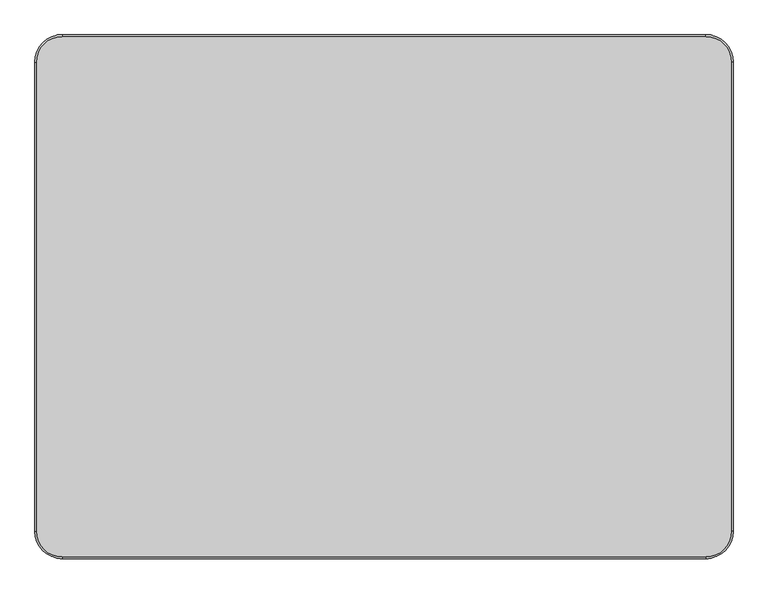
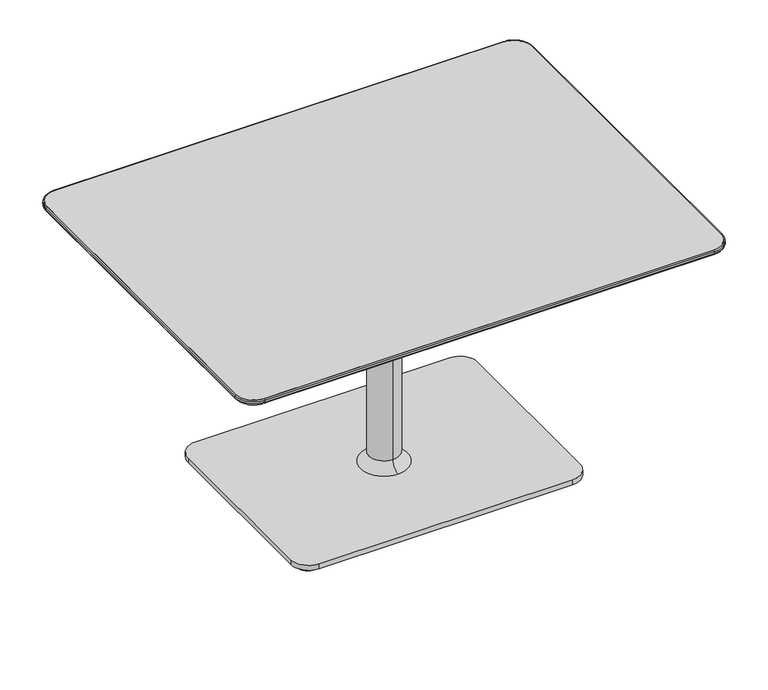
"""IFC4 building model written with IfcOpenShell, lengths in millimetres: furniture geometry, Steelcase Coalesse - Lagunitas - Table - Work : 26H x 36D x 48W."""

from ifc_helpers import new_model, si_unit, point, frame, frame_2d, origin, origin_with_axes, place, context, project, spatial, polyline, circle_curve, ellipse_curve, trimmed, segment, composite_curve, outline, extrude, source, transform, mapped, element, save
from ifc_brep_helpers import plane_surface, cylinder_surface, revolved_surface, spline_surface, advanced_brep


def furniture_39884a35(model_context):
    return source(origin(), model_context, "Body", "SolidModel", [
        advanced_brep(
        [(606.8570059, 409.7063839, 648.3724172), (562.4070059, 454.1563839, 648.3724172), (-561.7969941, 454.1563839, 648.3724172), (-606.2469941, 409.7063839, 648.3724172), (-606.2469941, -409.7063839, 648.3724172), (-561.7969941, -454.1563839, 648.3724172), (562.4070059, -454.1563839, 648.3724172), (606.8570059, -409.7063839, 648.3724172), (539.0389826, 386.3390054, 630.3099277), (539.0389826, -386.3390054, 630.3099277), (-538.4289709, -386.3390054, 630.3099277), (-538.4289709, 386.3390054, 630.3099277)],
        [
            (0, 1, circle_curve(frame((562.4070059, 409.7063839, 648.3724172), z_axis=(0.0, 0.0, 1.0), x_axis=(1.0, 0.0, 0.0)), 44.45)),
            (1, 2),
            (2, 3, circle_curve(frame((-561.7969941, 409.7063839, 648.3724172), z_axis=(0.0, 0.0, 1.0), x_axis=(1.0, 0.0, 0.0)), 44.45)),
            (3, 4),
            (4, 5, circle_curve(frame((-561.7969941, -409.7063839, 648.3724172), z_axis=(0.0, 0.0, 1.0), x_axis=(1.0, 0.0, 0.0)), 44.45)),
            (5, 6),
            (6, 7, circle_curve(frame((562.4070059, -409.7063839, 648.3724172), z_axis=(0.0, 0.0, 1.0), x_axis=(1.0, 0.0, 0.0)), 44.45)),
            (7, 0),
            (8, 9),
            (9, 10),
            (10, 11),
            (11, 8),
            (0, 8),
            (8, 1),
            (11, 2),
            (11, 3),
            (10, 4),
            (10, 5),
            (9, 6),
            (9, 7),
        ],
        [
            plane_surface(frame((0.3050059, 0.0, 648.3724172), z_axis=(0.0, 0.0, 1.0), x_axis=(-1.0, 0.0, 0.0))),
            plane_surface(frame((0.3050059, 0.0, 630.3099277), z_axis=(0.0, 0.0, -1.0), x_axis=(-1.0, 0.0, 0.0))),
            spline_surface(2, 1, [[(539.0389826, 386.3390054, 630.3099277), (606.8570059, 409.7063839, 648.3724172)], [(539.0389826, 386.3390054, 630.3099277), (606.8570059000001, 454.15638390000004, 648.3724172)], [(539.0389826, 386.3390054, 630.3099277), (562.4070059, 454.1563839, 648.3724172)]], [3, 3], [2, 2], [0.0, 1.0], [0.0, 1.0], weights=[[1.0, 1.0], [0.7071067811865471, 0.7071067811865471], [1.0, 1.0]]),
            plane_surface(frame((0.3050059, 386.3390054, 630.3099277), z_axis=(0.0, 0.2573680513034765, -0.9663134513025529), x_axis=(-1.0, 0.0, 0.0))),
            spline_surface(2, 1, [[(-538.4289709, 386.3390054, 630.3099277), (-561.7969941, 454.1563839, 648.3724172)], [(-538.4289709, 386.3390054, 630.3099277), (-606.2469940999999, 454.1563838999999, 648.3724172)], [(-538.4289709, 386.3390054, 630.3099277), (-606.2469941, 409.7063839, 648.3724172)]], [3, 3], [2, 2], [0.0, 1.0], [0.0, 1.0], weights=[[1.0, 1.0], [0.707106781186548, 0.707106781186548], [1.0, 1.0]]),
            plane_surface(frame((-538.4289709, 0.0, 630.3099277), z_axis=(-0.2573657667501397, 0.0, -0.966314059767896), x_axis=(0.0, -1.0, 0.0))),
            spline_surface(2, 1, [[(-538.4289709, -386.3390054, 630.3099277), (-606.2469941, -409.7063839, 648.3724172)], [(-538.4289709, -386.3390054, 630.3099277), (-606.2469941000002, -454.15638390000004, 648.3724172)], [(-538.4289709, -386.3390054, 630.3099277), (-561.7969941, -454.1563839, 648.3724172)]], [3, 3], [2, 2], [0.0, 1.0], [0.0, 1.0], weights=[[1.0, 1.0], [0.7071067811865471, 0.7071067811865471], [1.0, 1.0]]),
            plane_surface(frame((0.3050059, -386.3390054, 630.3099277), z_axis=(0.0, -0.2573680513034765, -0.9663134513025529), x_axis=(1.0, 0.0, 0.0))),
            spline_surface(2, 1, [[(539.0389826, -386.3390054, 630.3099277), (562.4070059, -454.1563839, 648.3724172)], [(539.0389826, -386.3390054, 630.3099277), (606.8570058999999, -454.1563838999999, 648.3724172)], [(539.0389826, -386.3390054, 630.3099277), (606.8570059, -409.7063839, 648.3724172)]], [3, 3], [2, 2], [0.0, 1.0], [0.0, 1.0], weights=[[1.0, 1.0], [0.707106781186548, 0.707106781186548], [1.0, 1.0]]),
            plane_surface(frame((539.0389826, 0.0, 630.3099277), z_axis=(0.2573657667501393, 0.0, -0.9663140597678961), x_axis=(0.0, 1.0, 0.0))),
        ],
        [
            (0, [[1, 2, 3, 4, 5, 6, 7, 8]]),
            (1, [[9, 10, 11, 12]]),
            (2, [[-1, 13, 14]]),
            (3, [[-12, 15, -2, -14]]),
            (4, [[-3, -15, 16]]),
            (5, [[-11, 17, -4, -16]]),
            (6, [[-5, -17, 18]]),
            (7, [[-10, 19, -6, -18]]),
            (8, [[-7, -19, 20]]),
            (9, [[-9, -13, -8, -20]]),
        ],
    ),
        extrude(outline(composite_curve([segment(trimmed(circle_curve(frame_2d((562.4070059, 409.7063839)), 44.45), [point((562.4070059, 454.1563839))], [point((606.8570059, 409.7063839))], False, "CARTESIAN"), True, "CONTINUOUS"), segment(polyline([(606.8570059, 409.7063839), (606.8570059, -409.7063839)]), True, "CONTINUOUS"), segment(trimmed(circle_curve(frame_2d((562.4070059, -409.7063839)), 44.45), [point((606.8570059, -409.7063839))], [point((562.4070059, -454.1563839))], False, "CARTESIAN"), True, "CONTINUOUS"), segment(polyline([(562.4070059, -454.1563839), (-561.7969941, -454.1563839)]), True, "CONTINUOUS"), segment(trimmed(circle_curve(frame_2d((-561.7969941, -409.7063839)), 44.45), [point((-561.7969941, -454.1563839))], [point((-606.2469941, -409.7063839))], False, "CARTESIAN"), True, "CONTINUOUS"), segment(polyline([(-606.2469941, -409.7063839), (-606.2469941, 409.7063839)]), True, "CONTINUOUS"), segment(trimmed(circle_curve(frame_2d((-561.7969941, 409.7063839)), 44.45), [point((-606.2469941, 409.7063839))], [point((-561.7969941, 454.1563839))], False, "CARTESIAN"), True, "CONTINUOUS"), segment(polyline([(-561.7969941, 454.1563839), (562.4070059, 454.1563839)]), True, "CONTINUOUS")], self_intersect=False)), frame((0.0, 0.0, 648.3724172), z_axis=(0.0, 0.0, 1.0), x_axis=(1.0, 0.0, 0.0)), (0.0, 0.0, 1.0), 12.0275828),
        extrude(outline(composite_curve([segment(trimmed(circle_curve(frame_2d((-321.7443146, 226.8029495)), 25.4), [point((-347.1443146, 226.8029495))], [point((-296.3443146, 226.8029495))], False, "CARTESIAN"), True, "CONTINUOUS"), segment(trimmed(circle_curve(frame_2d((-321.7443146, 226.8029495)), 25.4), [point((-296.3443146, 226.8029495))], [point((-347.1443146, 226.8029495))], False, "CARTESIAN"), True, "CONTINUOUS")], self_intersect=False)), origin_with_axes(), (0.0, 0.0, 1.0), 10.6571495),
        extrude(outline(composite_curve([segment(trimmed(circle_curve(frame_2d((322.3543263, 226.8029495)), 25.4), [point((296.9543263, 226.8029495))], [point((347.7543263, 226.8029495))], False, "CARTESIAN"), True, "CONTINUOUS"), segment(trimmed(circle_curve(frame_2d((322.3543263, 226.8029495)), 25.4), [point((347.7543263, 226.8029495))], [point((296.9543263, 226.8029495))], False, "CARTESIAN"), True, "CONTINUOUS")], self_intersect=False)), origin_with_axes(), (0.0, 0.0, 1.0), 10.6571495),
        extrude(outline(composite_curve([segment(trimmed(circle_curve(frame_2d((322.3543263, -226.8029495)), 25.4), [point((296.9543263, -226.8029495))], [point((347.7543263, -226.8029495))], False, "CARTESIAN"), True, "CONTINUOUS"), segment(trimmed(circle_curve(frame_2d((322.3543263, -226.8029495)), 25.4), [point((347.7543263, -226.8029495))], [point((296.9543263, -226.8029495))], False, "CARTESIAN"), True, "CONTINUOUS")], self_intersect=False)), origin_with_axes(), (0.0, 0.0, 1.0), 10.6571495),
        extrude(outline(composite_curve([segment(trimmed(circle_curve(frame_2d((-321.7443146, -226.8029495)), 25.4), [point((-347.1443146, -226.8029495))], [point((-296.3443146, -226.8029495))], False, "CARTESIAN"), True, "CONTINUOUS"), segment(trimmed(circle_curve(frame_2d((-321.7443146, -226.8029495)), 25.4), [point((-296.3443146, -226.8029495))], [point((-347.1443146, -226.8029495))], False, "CARTESIAN"), True, "CONTINUOUS")], self_intersect=False)), origin_with_axes(), (0.0, 0.0, 1.0), 10.6571495),
        extrude(outline(composite_curve([segment(trimmed(circle_curve(frame_2d((317.8050059, 222.2481833)), 44.45), [point((317.8050059, 266.6981833))], [point((362.2550059, 222.2481833))], False, "CARTESIAN"), True, "CONTINUOUS"), segment(polyline([(362.2550059, 222.2481833), (362.2550059, -222.2481833)]), True, "CONTINUOUS"), segment(trimmed(circle_curve(frame_2d((317.8050059, -222.2481833)), 44.45), [point((362.2550059, -222.2481833))], [point((317.8050059, -266.6981833))], False, "CARTESIAN"), True, "CONTINUOUS"), segment(polyline([(317.8050059, -266.6981833), (-317.1949941, -266.6981833)]), True, "CONTINUOUS"), segment(trimmed(circle_curve(frame_2d((-317.1949941, -222.2481833)), 44.45), [point((-317.1949941, -266.6981833))], [point((-361.6449941, -222.2481833))], False, "CARTESIAN"), True, "CONTINUOUS"), segment(polyline([(-361.6449941, -222.2481833), (-361.6449941, 222.2481833)]), True, "CONTINUOUS"), segment(trimmed(circle_curve(frame_2d((-317.1949941, 222.2481833)), 44.45), [point((-361.6449941, 222.2481833))], [point((-317.1949941, 266.6981833))], False, "CARTESIAN"), True, "CONTINUOUS"), segment(polyline([(-317.1949941, 266.6981833), (317.8050059, 266.6981833)]), True, "CONTINUOUS")], self_intersect=False)), frame((0.0, 0.0, 10.6571495), z_axis=(0.0, 0.0, 1.0), x_axis=(1.0, 0.0, 0.0)), (0.0, 0.0, 1.0), 12.7000004),
        advanced_brep(
        [(-609.2930954, 409.7063839, 652.1656816), (-561.7969941, 457.2024852, 652.1656816), (-561.7969941, 454.1563839, 648.3724172), (-606.2469941, 409.7063839, 648.3724172), (-609.2930954, 409.7063839, 657.3538988), (-561.7969941, 457.2024852, 657.3538988), (-606.2469941, 409.7063839, 660.4), (-561.7969941, 454.1563839, 660.4), (-606.2469941, -409.7063839, 648.3724172), (-609.2930954, -409.7063839, 652.1656816), (-609.2930954, -409.7063839, 657.3538988), (-606.2469941, -409.7063839, 660.4), (-561.7969941, -457.2024852, 652.1656816), (-561.7969941, -454.1563839, 648.3724172), (-561.7969941, -457.2024852, 657.3538988), (-561.7969941, -454.1563839, 660.4), (562.4070059, -454.1563839, 648.3724172), (562.4070059, -457.2024852, 652.1656816), (562.4070059, -457.2024852, 657.3538988), (562.4070059, -454.1563839, 660.4), (609.9031071, -409.7063839, 652.1656816), (606.8570059, -409.7063839, 648.3724172), (609.9031071, -409.7063839, 657.3538988), (606.8570059, -409.7063839, 660.4), (606.8570059, 409.7063839, 648.3724172), (609.9031071, 409.7063839, 652.1656816), (609.9031071, 409.7063839, 657.3538988), (606.8570059, 409.7063839, 660.4), (562.4070059, 457.2024852, 652.1656816), (562.4070059, 454.1563839, 648.3724172), (562.4070059, 457.2024852, 657.3538988), (562.4070059, 454.1563839, 660.4)],
        [
            (0, 1, circle_curve(frame((-561.7969941, 409.7063839, 652.1656816), z_axis=(0.0, 0.0, -1.0), x_axis=(0.0, 1.0, 0.0)), 47.4961012)),
            (1, 2, circle_curve(frame((-561.7969941, 453.3175869, 652.1656816), z_axis=(-1.0, 0.0, 0.0), x_axis=(0.0, -1.0, 0.0)), 3.8848983)),
            (2, 3, circle_curve(frame((-561.7969941, 409.7063839, 648.3724172), z_axis=(0.0, 0.0, 1.0), x_axis=(0.0, 1.0, 0.0)), 44.45)),
            (3, 0, circle_curve(frame((-605.4081971, 409.7063839, 652.1656816), z_axis=(0.0, 1.0, 0.0), x_axis=(1.0, 0.0, 0.0)), 3.8848983)),
            (4, 5, circle_curve(frame((-561.7969941, 409.7063839, 657.3538988), z_axis=(0.0, 0.0, -1.0), x_axis=(0.0, 1.0, 0.0)), 47.4961012)),
            (5, 1),
            (0, 4),
            (6, 7, circle_curve(frame((-561.7969941, 409.7063839, 660.4), z_axis=(0.0, 0.0, -1.0), x_axis=(0.0, 1.0, 0.0)), 44.45)),
            (7, 5, circle_curve(frame((-561.7969941, 454.1563839, 657.3538988), z_axis=(-1.0, 0.0, 0.0), x_axis=(0.0, -1.0, 0.0)), 3.0461012)),
            (4, 6, circle_curve(frame((-606.2469941, 409.7063839, 657.3538988), z_axis=(0.0, 1.0, 0.0), x_axis=(1.0, 0.0, 0.0)), 3.0461012)),
            (2, 7),
            (6, 3),
            (3, 8),
            (8, 9, circle_curve(frame((-605.4081971, -409.7063839, 652.1656816), z_axis=(0.0, 1.0, 0.0), x_axis=(1.0, 0.0, 0.0)), 3.8848983)),
            (9, 0),
            (9, 10),
            (10, 4),
            (10, 11, circle_curve(frame((-606.2469941, -409.7063839, 657.3538988), z_axis=(0.0, 1.0, 0.0), x_axis=(1.0, 0.0, 0.0)), 3.0461012)),
            (11, 6),
            (11, 8),
            (12, 9, circle_curve(frame((-561.7969941, -409.7063839, 652.1656816), z_axis=(0.0, 0.0, -1.0), x_axis=(-1.0, 0.0, 0.0)), 47.4961012)),
            (8, 13, circle_curve(frame((-561.7969941, -409.7063839, 648.3724172), z_axis=(0.0, 0.0, 1.0), x_axis=(-1.0, 0.0, 0.0)), 44.45)),
            (13, 12, circle_curve(frame((-561.7969941, -453.3175869, 652.1656816), z_axis=(-1.0, 0.0, 0.0), x_axis=(0.0, 1.0, 0.0)), 3.8848983)),
            (14, 10, circle_curve(frame((-561.7969941, -409.7063839, 657.3538988), z_axis=(0.0, 0.0, -1.0), x_axis=(-1.0, 0.0, 0.0)), 47.4961012)),
            (12, 14),
            (15, 11, circle_curve(frame((-561.7969941, -409.7063839, 660.4), z_axis=(0.0, 0.0, -1.0), x_axis=(-1.0, 0.0, 0.0)), 44.45)),
            (14, 15, circle_curve(frame((-561.7969941, -454.1563839, 657.3538988), z_axis=(-1.0, 0.0, 0.0), x_axis=(0.0, 1.0, 0.0)), 3.0461012)),
            (15, 13),
            (13, 16),
            (16, 17, circle_curve(frame((562.4070059, -453.3175869, 652.1656816), z_axis=(-1.0, 0.0, 0.0), x_axis=(0.0, 1.0, 0.0)), 3.8848983)),
            (17, 12),
            (17, 18),
            (18, 14),
            (18, 19, circle_curve(frame((562.4070059, -454.1563839, 657.3538988), z_axis=(-1.0, 0.0, 0.0), x_axis=(0.0, 1.0, 0.0)), 3.0461012)),
            (19, 15),
            (19, 16),
            (20, 17, circle_curve(frame((562.4070059, -409.7063839, 652.1656816), z_axis=(0.0, 0.0, -1.0), x_axis=(0.0, -1.0, 0.0)), 47.4961012)),
            (16, 21, circle_curve(frame((562.4070059, -409.7063839, 648.3724172), z_axis=(0.0, 0.0, 1.0), x_axis=(0.0, -1.0, 0.0)), 44.45)),
            (21, 20, circle_curve(frame((606.0182088, -409.7063839, 652.1656816), z_axis=(0.0, -1.0, 0.0), x_axis=(-1.0, 0.0, 0.0)), 3.8848983)),
            (22, 18, circle_curve(frame((562.4070059, -409.7063839, 657.3538988), z_axis=(0.0, 0.0, -1.0), x_axis=(0.0, -1.0, 0.0)), 47.4961012)),
            (20, 22),
            (23, 19, circle_curve(frame((562.4070059, -409.7063839, 660.4), z_axis=(0.0, 0.0, -1.0), x_axis=(0.0, -1.0, 0.0)), 44.45)),
            (22, 23, circle_curve(frame((606.8570059, -409.7063839, 657.3538988), z_axis=(0.0, -1.0, 0.0), x_axis=(-1.0, 0.0, 0.0)), 3.0461012)),
            (23, 21),
            (21, 24),
            (24, 25, circle_curve(frame((606.0182088, 409.7063839, 652.1656816), z_axis=(0.0, -1.0, 0.0), x_axis=(-1.0, 0.0, 0.0)), 3.8848983)),
            (25, 20),
            (25, 26),
            (26, 22),
            (26, 27, circle_curve(frame((606.8570059, 409.7063839, 657.3538988), z_axis=(0.0, -1.0, 0.0), x_axis=(-1.0, 0.0, 0.0)), 3.0461012)),
            (27, 23),
            (27, 24),
            (28, 25, circle_curve(frame((562.4070059, 409.7063839, 652.1656816), z_axis=(0.0, 0.0, -1.0), x_axis=(1.0, 0.0, 0.0)), 47.4961012)),
            (24, 29, circle_curve(frame((562.4070059, 409.7063839, 648.3724172), z_axis=(0.0, 0.0, 1.0), x_axis=(1.0, 0.0, 0.0)), 44.45)),
            (29, 28, circle_curve(frame((562.4070059, 453.3175869, 652.1656816), z_axis=(1.0, 0.0, 0.0), x_axis=(0.0, -1.0, 0.0)), 3.8848983)),
            (30, 26, circle_curve(frame((562.4070059, 409.7063839, 657.3538988), z_axis=(0.0, 0.0, -1.0), x_axis=(1.0, 0.0, 0.0)), 47.4961012)),
            (28, 30),
            (31, 27, circle_curve(frame((562.4070059, 409.7063839, 660.4), z_axis=(0.0, 0.0, -1.0), x_axis=(1.0, 0.0, 0.0)), 44.45)),
            (30, 31, circle_curve(frame((562.4070059, 454.1563839, 657.3538988), z_axis=(1.0, 0.0, 0.0), x_axis=(0.0, -1.0, 0.0)), 3.0461012)),
            (31, 29),
            (29, 2),
            (1, 28),
            (5, 30),
            (7, 31),
        ],
        [
            revolved_surface(trimmed(ellipse_curve(frame((-561.7969941, 453.3175869, 652.1656816), z_axis=(1.0, 0.0, 0.0), x_axis=(0.0, -1.0, 0.0)), 3.8848983, 3.8848983), [point((-561.7969941, 454.1563839, 648.3724172))], [point((-561.7969941, 457.2024852, 652.1656816))], True, "CARTESIAN"), (-561.7969941, 409.7063839, 0.0), (0.0, 0.0, 1.0)),
            cylinder_surface(frame((-561.7969941, 409.7063839, 0.0), z_axis=(0.0, 0.0, 1.0), x_axis=(0.0, 1.0, 0.0)), 47.4961012),
            revolved_surface(trimmed(ellipse_curve(frame((-561.7969941, 454.1563839, 657.3538988), z_axis=(1.0, 0.0, 0.0), x_axis=(0.0, -1.0, 0.0)), 3.0461012, 3.0461012), [point((-561.7969941, 457.2024852, 657.3538988))], [point((-561.7969941, 454.1563839, 660.4))], True, "CARTESIAN"), (-561.7969941, 409.7063839, 0.0), (0.0, 0.0, 1.0)),
            revolved_surface(polyline([(-561.7969941, 454.1563839, 660.4), (-561.7969941, 454.1563839, 648.3724172)]), (-561.7969941, 409.7063839, 0.0), (0.0, 0.0, 1.0)),
            cylinder_surface(frame((-605.4081971, 409.7063839, 652.1656816), z_axis=(0.0, 1.0, 0.0), x_axis=(1.0, 0.0, 0.0)), 3.8848983),
            plane_surface(frame((-609.2930954, 409.7063839, 652.1656816), z_axis=(-1.0, 0.0, 0.0), x_axis=(0.0, -1.0, 0.0))),
            cylinder_surface(frame((-606.2469941, 409.7063839, 657.3538988), z_axis=(0.0, 1.0, 0.0), x_axis=(1.0, 0.0, 0.0)), 3.0461012),
            plane_surface(frame((-606.2469941, 409.7063839, 660.4), z_axis=(1.0, 0.0, 0.0), x_axis=(0.0, -1.0, 0.0))),
            revolved_surface(trimmed(ellipse_curve(frame((-605.4081971, -409.7063839, 652.1656816), z_axis=(0.0, 1.0, 0.0), x_axis=(1.0, 0.0, 0.0)), 3.8848983, 3.8848983), [point((-606.2469941, -409.7063839, 648.3724172))], [point((-609.2930954, -409.7063839, 652.1656816))], True, "CARTESIAN"), (-561.7969941, -409.7063839, 0.0), (0.0, 0.0, 1.0)),
            cylinder_surface(frame((-561.7969941, -409.7063839, 0.0), z_axis=(0.0, 0.0, 1.0), x_axis=(-1.0, 0.0, 0.0)), 47.4961012),
            revolved_surface(trimmed(ellipse_curve(frame((-606.2469941, -409.7063839, 657.3538988), z_axis=(0.0, 1.0, 0.0), x_axis=(1.0, 0.0, 0.0)), 3.0461012, 3.0461012), [point((-609.2930954, -409.7063839, 657.3538988))], [point((-606.2469941, -409.7063839, 660.4))], True, "CARTESIAN"), (-561.7969941, -409.7063839, 0.0), (0.0, 0.0, 1.0)),
            revolved_surface(polyline([(-606.2469941, -409.7063839, 660.4), (-606.2469941, -409.7063839, 648.3724172)]), (-561.7969941, -409.7063839, 0.0), (0.0, 0.0, 1.0)),
            cylinder_surface(frame((-561.7969941, -453.3175869, 652.1656816), z_axis=(-1.0, 0.0, 0.0), x_axis=(0.0, 1.0, 0.0)), 3.8848983),
            plane_surface(frame((-561.7969941, -457.2024852, 652.1656816), z_axis=(0.0, -1.0, 0.0), x_axis=(1.0, 0.0, 0.0))),
            cylinder_surface(frame((-561.7969941, -454.1563839, 657.3538988), z_axis=(-1.0, 0.0, 0.0), x_axis=(0.0, 1.0, 0.0)), 3.0461012),
            plane_surface(frame((-561.7969941, -454.1563839, 660.4), z_axis=(0.0, 1.0, 0.0), x_axis=(1.0, 0.0, 0.0))),
            revolved_surface(trimmed(ellipse_curve(frame((562.4070059, -453.3175869, 652.1656816), z_axis=(-1.0, 0.0, 0.0), x_axis=(0.0, 1.0, 0.0)), 3.8848983, 3.8848983), [point((562.4070059, -454.1563839, 648.3724172))], [point((562.4070059, -457.2024852, 652.1656816))], True, "CARTESIAN"), (562.4070059, -409.7063839, 0.0), (0.0, 0.0, 1.0)),
            cylinder_surface(frame((562.4070059, -409.7063839, 0.0), z_axis=(0.0, 0.0, 1.0), x_axis=(0.0, -1.0, 0.0)), 47.4961012),
            revolved_surface(trimmed(ellipse_curve(frame((562.4070059, -454.1563839, 657.3538988), z_axis=(-1.0, 0.0, 0.0), x_axis=(0.0, 1.0, 0.0)), 3.0461012, 3.0461012), [point((562.4070059, -457.2024852, 657.3538988))], [point((562.4070059, -454.1563839, 660.4))], True, "CARTESIAN"), (562.4070059, -409.7063839, 0.0), (0.0, 0.0, 1.0)),
            revolved_surface(polyline([(562.4070059, -454.1563839, 660.4), (562.4070059, -454.1563839, 648.3724172)]), (562.4070059, -409.7063839, 0.0), (0.0, 0.0, 1.0)),
            cylinder_surface(frame((606.0182088, -409.7063839, 652.1656816), z_axis=(0.0, -1.0, 0.0), x_axis=(-1.0, 0.0, 0.0)), 3.8848983),
            plane_surface(frame((609.9031071, -409.7063839, 652.1656816), z_axis=(1.0, 0.0, 0.0), x_axis=(0.0, 1.0, 0.0))),
            cylinder_surface(frame((606.8570059, -409.7063839, 657.3538988), z_axis=(0.0, -1.0, 0.0), x_axis=(-1.0, 0.0, 0.0)), 3.0461012),
            plane_surface(frame((606.8570059, -409.7063839, 660.4), z_axis=(-1.0, 0.0, 0.0), x_axis=(0.0, 1.0, 0.0))),
            revolved_surface(trimmed(ellipse_curve(frame((606.0182088, 409.7063839, 652.1656816), z_axis=(0.0, -1.0, 0.0), x_axis=(-1.0, 0.0, 0.0)), 3.8848983, 3.8848983), [point((606.8570059, 409.7063839, 648.3724172))], [point((609.9031071, 409.7063839, 652.1656816))], True, "CARTESIAN"), (562.4070059, 409.7063839, 0.0), (0.0, 0.0, 1.0)),
            cylinder_surface(frame((562.4070059, 409.7063839, 0.0), z_axis=(0.0, 0.0, 1.0), x_axis=(1.0, 0.0, 0.0)), 47.4961012),
            revolved_surface(trimmed(ellipse_curve(frame((606.8570059, 409.7063839, 657.3538988), z_axis=(0.0, -1.0, 0.0), x_axis=(-1.0, 0.0, 0.0)), 3.0461012, 3.0461012), [point((609.9031071, 409.7063839, 657.3538988))], [point((606.8570059, 409.7063839, 660.4))], True, "CARTESIAN"), (562.4070059, 409.7063839, 0.0), (0.0, 0.0, 1.0)),
            revolved_surface(polyline([(606.8570059, 409.7063839, 660.4), (606.8570059, 409.7063839, 648.3724172)]), (562.4070059, 409.7063839, 0.0), (0.0, 0.0, 1.0)),
            cylinder_surface(frame((562.4070059, 453.3175869, 652.1656816), z_axis=(1.0, 0.0, 0.0), x_axis=(0.0, -1.0, 0.0)), 3.8848983),
            plane_surface(frame((562.4070059, 457.2024852, 652.1656816), z_axis=(0.0, 1.0, 0.0), x_axis=(-1.0, 0.0, 0.0))),
            cylinder_surface(frame((562.4070059, 454.1563839, 657.3538988), z_axis=(1.0, 0.0, 0.0), x_axis=(0.0, -1.0, 0.0)), 3.0461012),
            plane_surface(frame((562.4070059, 454.1563839, 660.4), z_axis=(0.0, -1.0, 0.0), x_axis=(-1.0, 0.0, 0.0))),
        ],
        [
            (0, [[1, 2, 3, 4]]),
            (1, [[5, 6, -1, 7]]),
            (2, [[8, 9, -5, 10]]),
            (3, [[-3, 11, -8, 12]]),
            (4, [[-4, 13, 14, 15]]),
            (5, [[-7, -15, 16, 17]]),
            (6, [[-10, -17, 18, 19]]),
            (7, [[-12, -19, 20, -13]]),
            (8, [[21, -14, 22, 23]]),
            (9, [[24, -16, -21, 25]]),
            (10, [[26, -18, -24, 27]]),
            (11, [[-22, -20, -26, 28]]),
            (12, [[-23, 29, 30, 31]]),
            (13, [[-25, -31, 32, 33]]),
            (14, [[-27, -33, 34, 35]]),
            (15, [[-28, -35, 36, -29]]),
            (16, [[37, -30, 38, 39]]),
            (17, [[40, -32, -37, 41]]),
            (18, [[42, -34, -40, 43]]),
            (19, [[-38, -36, -42, 44]]),
            (20, [[-39, 45, 46, 47]]),
            (21, [[-41, -47, 48, 49]]),
            (22, [[-43, -49, 50, 51]]),
            (23, [[-44, -51, 52, -45]]),
            (24, [[53, -46, 54, 55]]),
            (25, [[56, -48, -53, 57]]),
            (26, [[58, -50, -56, 59]]),
            (27, [[-54, -52, -58, 60]]),
            (28, [[-55, 61, -2, 62]]),
            (29, [[-57, -62, -6, 63]]),
            (30, [[-59, -63, -9, 64]]),
            (31, [[-60, -64, -11, -61]]),
        ],
    ),
        advanced_brep(
        [(0.3050059, -37.9287895, 500.8567695), (0.3050059, 37.9287895, 500.8567695), (0.3050059, 37.9287895, 50.0429711), (0.3050059, -37.9287895, 50.0429711), (0.3050059, -59.3395816, 538.8698908), (0.3050059, 59.3395816, 538.8698908), (0.3050059, -197.9068019, 622.8534968), (0.3050059, 197.9068019, 622.8534968), (0.3050059, -212.4265152, 626.9101307), (0.3050059, 212.4265152, 626.9101307), (0.3050059, -226.4292749, 626.9101307), (0.3050059, 226.4292749, 626.9101307), (0.3050059, -228.4774392, 630.3099277), (0.3050059, 228.4774392, 630.3099277), (0.3050059, 0.0, 630.3099277), (0.3050059, -60.2304855, 23.3571499), (0.3050059, 60.2304855, 23.3571499), (0.3050059, 0.0, 23.3571499)],
        [
            (0, 1, circle_curve(frame((0.3050059, 0.0, 500.8567695), z_axis=(0.0, 0.0, -1.0), x_axis=(0.0, 1.0, 0.0)), 37.9287895)),
            (1, 2),
            (2, 3, circle_curve(frame((0.3050059, 0.0, 50.0429711), z_axis=(0.0, 0.0, 1.0), x_axis=(0.0, 1.0, 0.0)), 37.9287895)),
            (3, 0),
            (1, 0, circle_curve(frame((0.3050059, 0.0, 500.8567695), z_axis=(0.0, 0.0, -1.0), x_axis=(0.0, 1.0, 0.0)), 37.9287895)),
            (3, 2, circle_curve(frame((0.3050059, 0.0, 50.0429711), z_axis=(0.0, 0.0, 1.0), x_axis=(0.0, 1.0, 0.0)), 37.9287895)),
            (4, 5, circle_curve(frame((0.3050059, 0.0, 538.8698908), z_axis=(0.0, 0.0, -1.0), x_axis=(0.0, 1.0, 0.0)), 59.3395816)),
            (5, 1, circle_curve(frame((0.3050059, 82.3787895, 500.8567695), z_axis=(1.0, 0.0, 0.0), x_axis=(0.0, 1.0, 0.0)), 44.45)),
            (0, 4, circle_curve(frame((0.3050059, -82.3787895, 500.8567695), z_axis=(1.0, 0.0, 0.0), x_axis=(0.0, -1.0, 0.0)), 44.45)),
            (5, 4, circle_curve(frame((0.3050059, 0.0, 538.8698908), z_axis=(0.0, 0.0, -1.0), x_axis=(0.0, 1.0, 0.0)), 59.3395816)),
            (6, 7, circle_curve(frame((0.3050059, 0.0, 622.8534968), z_axis=(0.0, 0.0, -1.0), x_axis=(0.0, 1.0, 0.0)), 197.9068019)),
            (7, 5),
            (4, 6),
            (7, 6, circle_curve(frame((0.3050059, 0.0, 622.8534968), z_axis=(0.0, 0.0, -1.0), x_axis=(0.0, 1.0, 0.0)), 197.9068019)),
            (8, 9, circle_curve(frame((0.3050059, 0.0, 626.9101307), z_axis=(0.0, 0.0, -1.0), x_axis=(0.0, 1.0, 0.0)), 212.4265152)),
            (9, 7, circle_curve(frame((0.3050059, 212.4265152, 598.8969605), z_axis=(1.0, 0.0, 0.0), x_axis=(0.0, 1.0, 0.0)), 28.0131702)),
            (6, 8, circle_curve(frame((0.3050059, -212.4265152, 598.8969605), z_axis=(1.0, 0.0, 0.0), x_axis=(0.0, -1.0, 0.0)), 28.0131702)),
            (9, 8, circle_curve(frame((0.3050059, 0.0, 626.9101307), z_axis=(0.0, 0.0, -1.0), x_axis=(0.0, 1.0, 0.0)), 212.4265152)),
            (10, 11, circle_curve(frame((0.3050059, 0.0, 626.9101307), z_axis=(0.0, 0.0, -1.0), x_axis=(0.0, 1.0, 0.0)), 226.4292749)),
            (11, 9),
            (8, 10),
            (11, 10, circle_curve(frame((0.3050059, 0.0, 626.9101307), z_axis=(0.0, 0.0, -1.0), x_axis=(0.0, 1.0, 0.0)), 226.4292749)),
            (12, 13, circle_curve(frame((0.3050059, 0.0, 630.3099277), z_axis=(0.0, 0.0, -1.0), x_axis=(0.0, 1.0, 0.0)), 228.4774392)),
            (13, 11, circle_curve(frame((0.3050059, 226.4292749, 629.2269744), z_axis=(-1.0, 0.0, 0.0), x_axis=(0.0, 1.0, 0.0)), 2.3168437)),
            (10, 12, circle_curve(frame((0.3050059, -226.4292749, 629.2269744), z_axis=(-1.0, 0.0, 0.0), x_axis=(0.0, -1.0, 0.0)), 2.3168437)),
            (13, 12, circle_curve(frame((0.3050059, 0.0, 630.3099277), z_axis=(0.0, 0.0, -1.0), x_axis=(0.0, 1.0, 0.0)), 228.4774392)),
            (14, 13),
            (12, 14),
            (15, 16, circle_curve(frame((0.3050059, 0.0, 23.3571499), z_axis=(0.0, 0.0, -1.0), x_axis=(0.0, 1.0, 0.0)), 60.2304855)),
            (16, 17),
            (17, 15),
            (16, 15, circle_curve(frame((0.3050059, 0.0, 23.3571499), z_axis=(0.0, 0.0, -1.0), x_axis=(0.0, 1.0, 0.0)), 60.2304855)),
            (2, 16, circle_curve(frame((0.3050059, 65.045532, 50.0429711), z_axis=(1.0, 0.0, 0.0), x_axis=(0.0, 1.0, 0.0)), 27.1167425)),
            (15, 3, circle_curve(frame((0.3050059, -65.045532, 50.0429711), z_axis=(1.0, 0.0, 0.0), x_axis=(0.0, -1.0, 0.0)), 27.1167425)),
        ],
        [
            cylinder_surface(frame((0.3050059, 0.0, 738.2745102), z_axis=(0.0, 0.0, 1.0), x_axis=(0.0, 1.0, 0.0)), 37.9287895),
            revolved_surface(trimmed(ellipse_curve(frame((0.3050059, 82.3787895, 500.8567695), z_axis=(-1.0, 0.0, 0.0), x_axis=(0.0, 1.0, 0.0)), 44.45, 44.45), [point((0.3050059, 37.9287895, 500.8567695))], [point((0.3050059, 59.3395816, 538.8698908))], True, "CARTESIAN"), (0.3050059, 0.0, 738.2745102), (0.0, 0.0, 1.0)),
            revolved_surface(polyline([(0.3050059, 59.3395816, 538.8698908), (0.3050059, 197.9068019, 622.8534968)]), (0.3050059, 0.0, 738.2745102), (0.0, 0.0, 1.0)),
            revolved_surface(trimmed(ellipse_curve(frame((0.3050059, 212.4265152, 598.8969605), z_axis=(-1.0, 0.0, 0.0), x_axis=(0.0, 1.0, 0.0)), 28.0131702, 28.0131702), [point((0.3050059, 197.9068019, 622.8534968))], [point((0.3050059, 212.4265152, 626.9101307))], True, "CARTESIAN"), (0.3050059, 0.0, 738.2745102), (0.0, 0.0, 1.0)),
            plane_surface(frame((0.3050059, 0.0, 626.9101307), z_axis=(0.0, 0.0, -1.0), x_axis=(0.0, 1.0, 0.0))),
            revolved_surface(trimmed(ellipse_curve(frame((0.3050059, 226.4292749, 629.2269744), z_axis=(1.0, 0.0, 0.0), x_axis=(0.0, 1.0, 0.0)), 2.3168437, 2.3168437), [point((0.3050059, 226.4292749, 626.9101307))], [point((0.3050059, 228.4774392, 630.3099277))], True, "CARTESIAN"), (0.3050059, 0.0, 738.2745102), (0.0, 0.0, 1.0)),
            plane_surface(frame((0.3050059, 0.0, 630.3099277), z_axis=(0.0, 0.0, 1.0), x_axis=(0.0, 1.0, 0.0))),
            plane_surface(frame((0.3050059, 0.0, 23.3571499), z_axis=(0.0, 0.0, -1.0), x_axis=(0.0, 1.0, 0.0))),
            revolved_surface(trimmed(ellipse_curve(frame((0.3050059, 65.045532, 50.0429711), z_axis=(-1.0, 0.0, 0.0), x_axis=(0.0, 1.0, 0.0)), 27.1167425, 27.1167425), [point((0.3050059, 60.2304855, 23.3571499))], [point((0.3050059, 37.9287895, 50.0429711))], True, "CARTESIAN"), (0.3050059, 0.0, 738.2745102), (0.0, 0.0, 1.0)),
        ],
        [
            (0, [[1, 2, 3, 4]]),
            (0, [[5, -4, 6, -2]]),
            (1, [[7, 8, -1, 9]]),
            (1, [[10, -9, -5, -8]]),
            (2, [[11, 12, -7, 13]]),
            (2, [[14, -13, -10, -12]]),
            (3, [[15, 16, -11, 17]]),
            (3, [[18, -17, -14, -16]]),
            (4, [[19, 20, -15, 21]]),
            (4, [[22, -21, -18, -20]]),
            (5, [[23, 24, -19, 25]]),
            (5, [[26, -25, -22, -24]]),
            (6, [[27, -23, 28]]),
            (6, [[-28, -26, -27]]),
            (7, [[29, 30, 31]]),
            (7, [[32, -31, -30]]),
            (8, [[-3, 33, -29, 34]]),
            (8, [[-6, -34, -32, -33]]),
        ],
    ),
    ])


if __name__ == "__main__":
    model = new_model("IFC4")
    model_context = context("Model", 3, world=origin())
    ifc_project = project(units=[si_unit("LENGTHUNIT", "METRE", prefix="MILLI")], contexts=[model_context])
    site = spatial("IfcSite", under=ifc_project)
    building = spatial("IfcBuilding", under=site)
    placement = place(None, origin())
    furniture_shape = furniture_39884a35(model_context)
    element("IfcFurniture", 1, ObjectType="Steelcase Coalesse - Lagunitas - Table - Work : 26H x 36D x 48W", at=placement, inside=building, context=model_context, shape_type="MappedRepresentation", body=[
        mapped(furniture_shape, transform((0.0, 0.0, 0.0), x_axis=(1.0, 0.0, 0.0), y_axis=(0.0, 1.0, 0.0), z_axis=(0.0, 0.0, 1.0))),
    ])
    save(model, "model.ifc")
